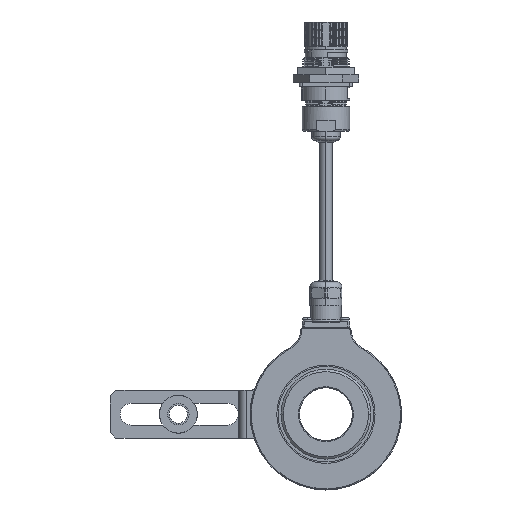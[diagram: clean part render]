
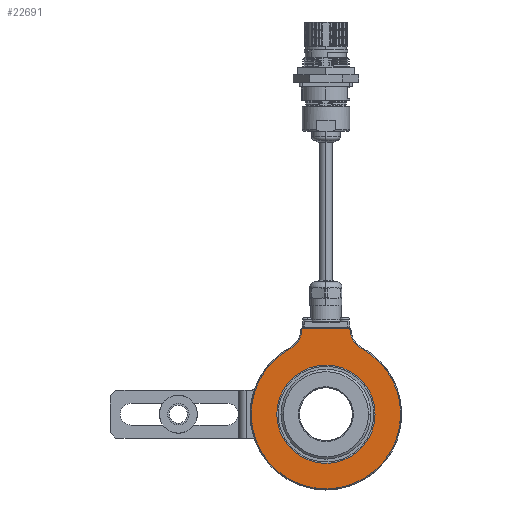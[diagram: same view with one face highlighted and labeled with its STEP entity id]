
A CAD part, left-side view. The second image highlights one B-rep face of the part: STEP entity #22691.
In plain terms, the highlighted planar face has unit normal (-1, 0, 0).
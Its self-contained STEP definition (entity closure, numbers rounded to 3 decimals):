
#323 = AXIS2_PLACEMENT_3D ( 'NONE', #49387, #33281, #22830 ) ;
#533 = PLANE ( 'NONE',  #11467 ) ;
#776 = CIRCLE ( 'NONE', #49979, 10.5 ) ;
#1172 = CARTESIAN_POINT ( 'NONE',  ( -26., -39.5, 0. ) ) ;
#1240 = DIRECTION ( 'NONE',  ( -1., 0., 0. ) ) ;
#1608 = FACE_BOUND ( 'NONE', #46935, .T. ) ;
#2588 = EDGE_LOOP ( 'NONE', ( #26418, #41125, #17827, #41870, #54098, #14441, #17229, #11497 ) ) ;
#3381 = VERTEX_POINT ( 'NONE', #56999 ) ;
#3788 = EDGE_CURVE ( 'NONE', #26759, #29184, #26010, .T. ) ;
#4108 = LINE ( 'NONE', #25440, #5952 ) ;
#5744 = CARTESIAN_POINT ( 'NONE',  ( -26., -18.776, 10.364 ) ) ;
#5952 = VECTOR ( 'NONE', #14904, 1000. ) ;
#6434 = LINE ( 'NONE', #5744, #51701 ) ;
#6642 = CARTESIAN_POINT ( 'NONE',  ( -26., -13.141, 42.32 ) ) ;
#7182 = DIRECTION ( 'NONE',  ( -1., 0., 0. ) ) ;
#10824 = CARTESIAN_POINT ( 'NONE',  ( -26., -23.482, 44.143 ) ) ;
#11467 = AXIS2_PLACEMENT_3D ( 'NONE', #21918, #1240, #22256 ) ;
#11497 = ORIENTED_EDGE ( 'NONE', *, *, #56849, .T. ) ;
#14441 = ORIENTED_EDGE ( 'NONE', *, *, #56447, .T. ) ;
#14904 = DIRECTION ( 'NONE',  ( 0., 1., 0. ) ) ;
#15604 = CARTESIAN_POINT ( 'NONE',  ( -26., 23.482, 44.143 ) ) ;
#17229 = ORIENTED_EDGE ( 'NONE', *, *, #42465, .T. ) ;
#17329 = FACE_OUTER_BOUND ( 'NONE', #2588, .T. ) ;
#17827 = ORIENTED_EDGE ( 'NONE', *, *, #3788, .T. ) ;
#18105 = ORIENTED_EDGE ( 'NONE', *, *, #44310, .T. ) ;
#18247 = DIRECTION ( 'NONE',  ( 0., -1., 0. ) ) ;
#18671 = VERTEX_POINT ( 'NONE', #48323 ) ;
#19129 = CARTESIAN_POINT ( 'NONE',  ( -26., 39.5, 0. ) ) ;
#20801 = DIRECTION ( 'NONE',  ( 0., 0.174, -0.985 ) ) ;
#21918 = CARTESIAN_POINT ( 'NONE',  ( -26., 40., 0. ) ) ;
#21922 = CIRCLE ( 'NONE', #52024, 26. ) ;
#22256 = DIRECTION ( 'NONE',  ( 0., -1., 0. ) ) ;
#22413 = VERTEX_POINT ( 'NONE', #19129 ) ;
#22691 = ADVANCED_FACE ( 'NONE', ( #17329, #1608 ), #533, .T. ) ;
#22759 = DIRECTION ( 'NONE',  ( 0., -1., 0. ) ) ;
#22830 = DIRECTION ( 'NONE',  ( 0., -1., 0. ) ) ;
#22955 = CARTESIAN_POINT ( 'NONE',  ( -26., 0., 0. ) ) ;
#25440 = CARTESIAN_POINT ( 'NONE',  ( -26., 40., 45.5 ) ) ;
#26010 = LINE ( 'NONE', #68786, #34037 ) ;
#26418 = ORIENTED_EDGE ( 'NONE', *, *, #51090, .T. ) ;
#26586 = EDGE_CURVE ( 'NONE', #48220, #3381, #27129, .T. ) ;
#26759 = VERTEX_POINT ( 'NONE', #45481 ) ;
#27129 = CIRCLE ( 'NONE', #45012, 26. ) ;
#28537 = EDGE_CURVE ( 'NONE', #44021, #26759, #4108, .T. ) ;
#28543 = DIRECTION ( 'NONE',  ( 0., -1., 0. ) ) ;
#29184 = VERTEX_POINT ( 'NONE', #66288 ) ;
#29806 = ORIENTED_EDGE ( 'NONE', *, *, #26586, .T. ) ;
#30374 = CIRCLE ( 'NONE', #32607, 10.5 ) ;
#32607 = AXIS2_PLACEMENT_3D ( 'NONE', #15604, #58320, #42937 ) ;
#33281 = DIRECTION ( 'NONE',  ( -1., 0., 0. ) ) ;
#34037 = VECTOR ( 'NONE', #20801, 1000. ) ;
#34608 = DIRECTION ( 'NONE',  ( 1., 0., 0. ) ) ;
#35407 = CARTESIAN_POINT ( 'NONE',  ( -26., -12.58, 45.5 ) ) ;
#38500 = CIRCLE ( 'NONE', #40713, 39.5 ) ;
#40298 = EDGE_CURVE ( 'NONE', #29184, #48273, #30374, .T. ) ;
#40311 = CARTESIAN_POINT ( 'NONE',  ( -26., 0., 0. ) ) ;
#40713 = AXIS2_PLACEMENT_3D ( 'NONE', #55096, #7182, #28543 ) ;
#41125 = ORIENTED_EDGE ( 'NONE', *, *, #28537, .T. ) ;
#41870 = ORIENTED_EDGE ( 'NONE', *, *, #40298, .T. ) ;
#42465 = EDGE_CURVE ( 'NONE', #59747, #18671, #38500, .T. ) ;
#42813 = DIRECTION ( 'NONE',  ( 0., 1., 0. ) ) ;
#42937 = DIRECTION ( 'NONE',  ( 0., -1., 0. ) ) ;
#43497 = DIRECTION ( 'NONE',  ( 1., 0., 0. ) ) ;
#44021 = VERTEX_POINT ( 'NONE', #35407 ) ;
#44310 = EDGE_CURVE ( 'NONE', #3381, #48220, #21922, .T. ) ;
#45012 = AXIS2_PLACEMENT_3D ( 'NONE', #22955, #65671, #60376 ) ;
#45481 = CARTESIAN_POINT ( 'NONE',  ( -26., 12.58, 45.5 ) ) ;
#46935 = EDGE_LOOP ( 'NONE', ( #29806, #18105 ) ) ;
#48220 = VERTEX_POINT ( 'NONE', #65386 ) ;
#48273 = VERTEX_POINT ( 'NONE', #50238 ) ;
#48323 = CARTESIAN_POINT ( 'NONE',  ( -26., -18.551, 34.873 ) ) ;
#49387 = CARTESIAN_POINT ( 'NONE',  ( -26., 0., 0. ) ) ;
#49484 = CIRCLE ( 'NONE', #323, 39.5 ) ;
#49979 = AXIS2_PLACEMENT_3D ( 'NONE', #10824, #34608, #22759 ) ;
#50238 = CARTESIAN_POINT ( 'NONE',  ( -26., 18.551, 34.873 ) ) ;
#51090 = EDGE_CURVE ( 'NONE', #68239, #44021, #6434, .T. ) ;
#51701 = VECTOR ( 'NONE', #59265, 1000. ) ;
#52024 = AXIS2_PLACEMENT_3D ( 'NONE', #63486, #43497, #42813 ) ;
#54098 = ORIENTED_EDGE ( 'NONE', *, *, #68075, .T. ) ;
#55096 = CARTESIAN_POINT ( 'NONE',  ( -26., 0., 0. ) ) ;
#55476 = CIRCLE ( 'NONE', #56636, 39.5 ) ;
#56447 = EDGE_CURVE ( 'NONE', #22413, #59747, #55476, .T. ) ;
#56636 = AXIS2_PLACEMENT_3D ( 'NONE', #40311, #61650, #18247 ) ;
#56849 = EDGE_CURVE ( 'NONE', #18671, #68239, #776, .T. ) ;
#56999 = CARTESIAN_POINT ( 'NONE',  ( -26., -26., 0. ) ) ;
#58320 = DIRECTION ( 'NONE',  ( 1., 0., 0. ) ) ;
#59265 = DIRECTION ( 'NONE',  ( 0., 0.174, 0.985 ) ) ;
#59747 = VERTEX_POINT ( 'NONE', #1172 ) ;
#60376 = DIRECTION ( 'NONE',  ( 0., 1., 0. ) ) ;
#61650 = DIRECTION ( 'NONE',  ( -1., 0., 0. ) ) ;
#63486 = CARTESIAN_POINT ( 'NONE',  ( -26., 0., 0. ) ) ;
#65386 = CARTESIAN_POINT ( 'NONE',  ( -26., 26., 0. ) ) ;
#65671 = DIRECTION ( 'NONE',  ( 1., 0., 0. ) ) ;
#66288 = CARTESIAN_POINT ( 'NONE',  ( -26., 13.141, 42.32 ) ) ;
#68075 = EDGE_CURVE ( 'NONE', #48273, #22413, #49484, .T. ) ;
#68239 = VERTEX_POINT ( 'NONE', #6642 ) ;
#68786 = CARTESIAN_POINT ( 'NONE',  ( -26., 21.188, -3.317 ) ) ;
